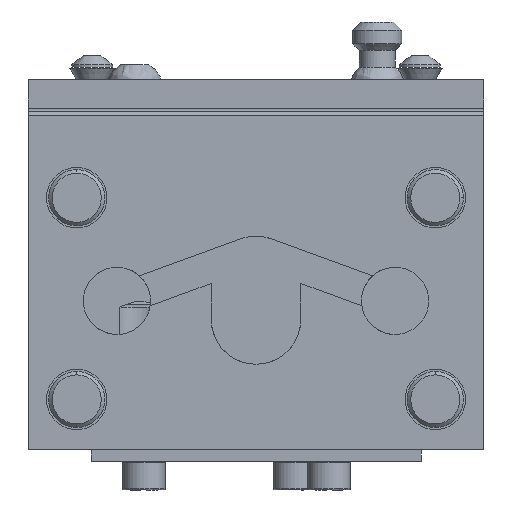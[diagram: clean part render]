
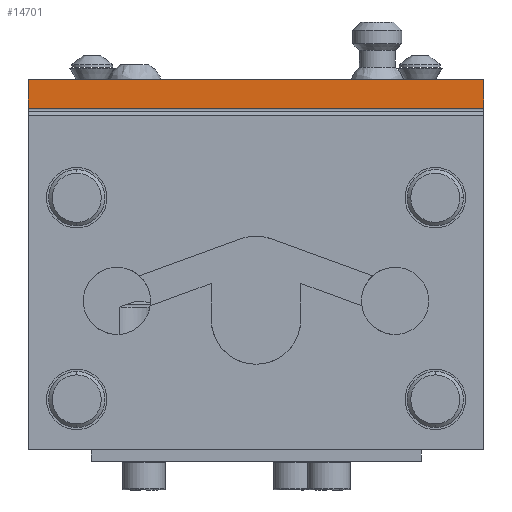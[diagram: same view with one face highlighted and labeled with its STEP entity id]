
A CAD part, front view. The second image highlights one B-rep face of the part: STEP entity #14701.
In plain terms, the highlighted planar face has unit normal (0, -1, 0).
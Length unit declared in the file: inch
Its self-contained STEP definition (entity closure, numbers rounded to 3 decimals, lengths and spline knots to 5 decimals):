
#540 = CARTESIAN_POINT ( 'NONE',  ( 1.19353, -1.84425, 0.69341 ) ) ;
#1161 = EDGE_LOOP ( 'NONE', ( #13939, #5478, #9067, #14483 ) ) ;
#1302 = DIRECTION ( 'NONE',  ( 0., 0., -1. ) ) ;
#2221 = DIRECTION ( 'NONE',  ( 1., 0., 0. ) ) ;
#2319 = EDGE_CURVE ( 'NONE', #11156, #16287, #6621, .T. ) ;
#2742 = VECTOR ( 'NONE', #18177, 39.37008 ) ;
#3071 = VECTOR ( 'NONE', #7882, 39.37008 ) ;
#4013 = VECTOR ( 'NONE', #18443, 39.37008 ) ;
#4326 = PLANE ( 'NONE',  #14222 ) ;
#4806 = CARTESIAN_POINT ( 'NONE',  ( -2.80647, -1.84425, 0.69341 ) ) ;
#4836 = CARTESIAN_POINT ( 'NONE',  ( -2.80647, -1.84425, 0.69341 ) ) ;
#5478 = ORIENTED_EDGE ( 'NONE', *, *, #2319, .T. ) ;
#5568 = VERTEX_POINT ( 'NONE', #6004 ) ;
#6004 = CARTESIAN_POINT ( 'NONE',  ( -2.80647, -1.84425, 0.44341 ) ) ;
#6621 = LINE ( 'NONE', #12351, #3071 ) ;
#7851 = LINE ( 'NONE', #4836, #4013 ) ;
#7882 = DIRECTION ( 'NONE',  ( 0., 0., 1. ) ) ;
#9067 = ORIENTED_EDGE ( 'NONE', *, *, #16380, .T. ) ;
#9592 = VECTOR ( 'NONE', #2221, 39.37008 ) ;
#9613 = CARTESIAN_POINT ( 'NONE',  ( -2.80647, -1.84425, -2.55659 ) ) ;
#9975 = FACE_OUTER_BOUND ( 'NONE', #1161, .T. ) ;
#9995 = EDGE_CURVE ( 'NONE', #5568, #11156, #10894, .T. ) ;
#10531 = VERTEX_POINT ( 'NONE', #4806 ) ;
#10894 = LINE ( 'NONE', #14001, #9592 ) ;
#11156 = VERTEX_POINT ( 'NONE', #11428 ) ;
#11326 = DIRECTION ( 'NONE',  ( 0., -1., 0. ) ) ;
#11428 = CARTESIAN_POINT ( 'NONE',  ( 1.19353, -1.84425, 0.44341 ) ) ;
#12351 = CARTESIAN_POINT ( 'NONE',  ( 1.19353, -1.84425, -2.55659 ) ) ;
#13177 = CARTESIAN_POINT ( 'NONE',  ( -2.80647, -1.84425, 0.44341 ) ) ;
#13939 = ORIENTED_EDGE ( 'NONE', *, *, #9995, .T. ) ;
#14001 = CARTESIAN_POINT ( 'NONE',  ( -2.80647, -1.84425, 0.44341 ) ) ;
#14222 = AXIS2_PLACEMENT_3D ( 'NONE', #13177, #11326, #1302 ) ;
#14483 = ORIENTED_EDGE ( 'NONE', *, *, #15344, .T. ) ;
#14701 = ADVANCED_FACE ( 'NONE', ( #9975 ), #4326, .T. ) ;
#15344 = EDGE_CURVE ( 'NONE', #10531, #5568, #18370, .T. ) ;
#16287 = VERTEX_POINT ( 'NONE', #540 ) ;
#16380 = EDGE_CURVE ( 'NONE', #16287, #10531, #7851, .T. ) ;
#18177 = DIRECTION ( 'NONE',  ( 0., 0., -1. ) ) ;
#18370 = LINE ( 'NONE', #9613, #2742 ) ;
#18443 = DIRECTION ( 'NONE',  ( -1., 0., 0. ) ) ;
